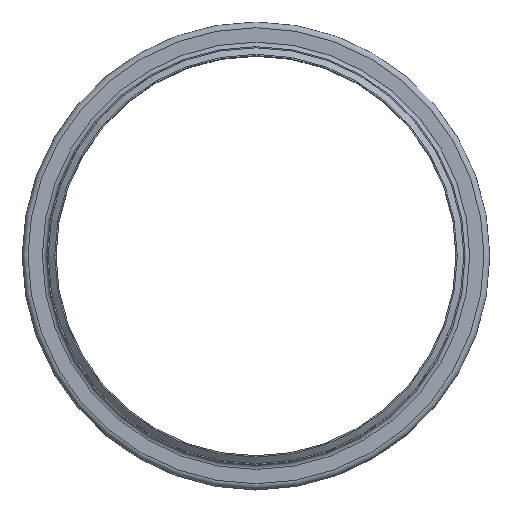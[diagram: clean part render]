
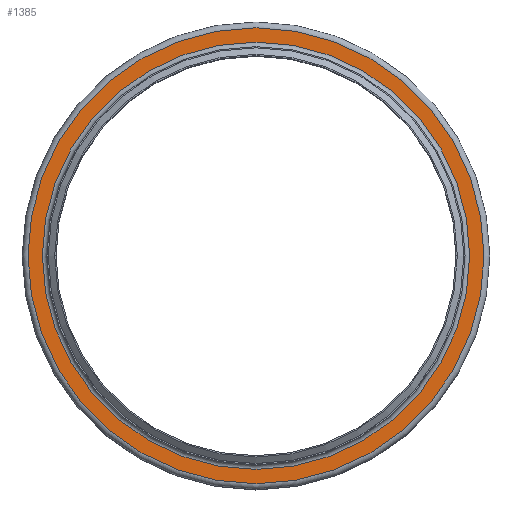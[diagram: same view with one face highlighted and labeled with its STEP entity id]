
A CAD part, top view. The second image highlights one B-rep face of the part: STEP entity #1385.
In plain terms, the highlighted planar face has unit normal (0, 0, 1).
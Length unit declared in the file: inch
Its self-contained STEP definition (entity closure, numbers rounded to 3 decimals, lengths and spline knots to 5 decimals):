
#155=FACE_BOUND('',#416,.T.);
#256=FACE_OUTER_BOUND('',#415,.T.);
#415=EDGE_LOOP('',(#1168));
#416=EDGE_LOOP('',(#1169));
#584=CIRCLE('',#1684,10.28);
#585=CIRCLE('',#1686,10.97);
#703=VERTEX_POINT('',#2631);
#704=VERTEX_POINT('',#2635);
#862=EDGE_CURVE('',#703,#703,#584,.T.);
#863=EDGE_CURVE('',#704,#704,#585,.T.);
#1168=ORIENTED_EDGE('',*,*,#863,.F.);
#1169=ORIENTED_EDGE('',*,*,#862,.T.);
#1284=PLANE('',#1685);
#1385=ADVANCED_FACE('',(#256,#155),#1284,.T.);
#1684=AXIS2_PLACEMENT_3D('',#2633,#2197,#2198);
#1685=AXIS2_PLACEMENT_3D('',#2634,#2199,#2200);
#1686=AXIS2_PLACEMENT_3D('',#2636,#2201,#2202);
#2197=DIRECTION('center_axis',(0.,0.,-1.));
#2198=DIRECTION('ref_axis',(1.,0.,0.));
#2199=DIRECTION('center_axis',(0.,0.,1.));
#2200=DIRECTION('ref_axis',(1.,0.,0.));
#2201=DIRECTION('center_axis',(0.,0.,-1.));
#2202=DIRECTION('ref_axis',(1.,0.,0.));
#2631=CARTESIAN_POINT('',(10.28,0.,-0.22));
#2633=CARTESIAN_POINT('Origin',(0.,0.,-0.22));
#2634=CARTESIAN_POINT('Origin',(0.,10.97,-0.22));
#2635=CARTESIAN_POINT('',(10.97,0.,-0.22));
#2636=CARTESIAN_POINT('Origin',(0.,0.,-0.22));
